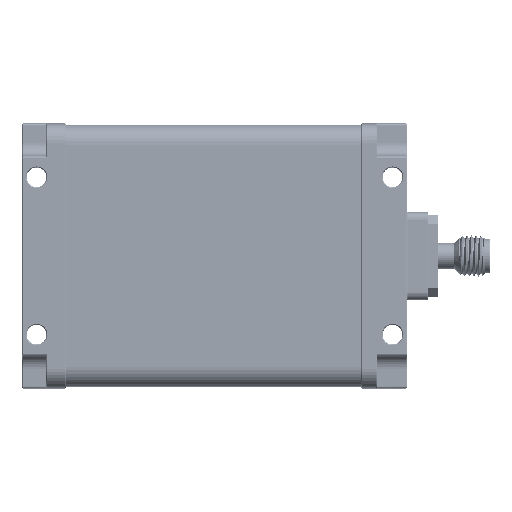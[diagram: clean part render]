
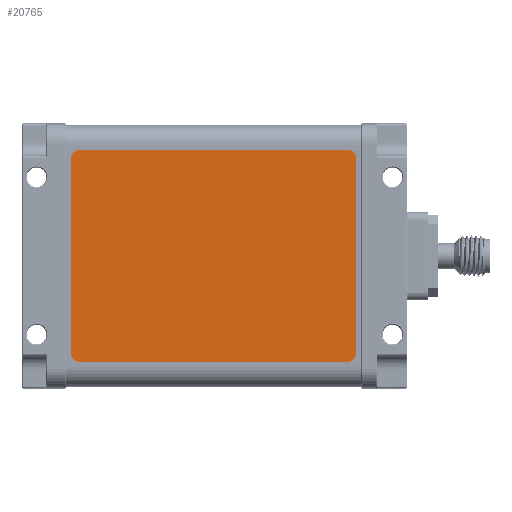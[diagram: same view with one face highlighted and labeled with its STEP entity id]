
A CAD part, top view. The second image highlights one B-rep face of the part: STEP entity #20765.
In plain terms, the highlighted planar face has unit normal (0, 0, 1) as drawn and (0, 0, -1) by its records, which use the part's own axes.
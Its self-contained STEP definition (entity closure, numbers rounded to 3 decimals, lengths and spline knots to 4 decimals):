
#329=PLANE('',#22050);
#865=FACE_OUTER_BOUND('',#2049,.T.);
#2049=EDGE_LOOP('',(#14317,#14318,#14319,#14320,#14321,#14322,#14323,#14324));
#3086=CIRCLE('',#22048,0.05);
#3088=CIRCLE('',#22051,0.05);
#3089=CIRCLE('',#22052,0.05);
#3090=CIRCLE('',#22053,0.05);
#5264=LINE('',#38031,#6622);
#5265=LINE('',#38035,#6623);
#5266=LINE('',#38039,#6624);
#5267=LINE('',#38042,#6625);
#6622=VECTOR('',#24461,0.3937);
#6623=VECTOR('',#24464,0.3937);
#6624=VECTOR('',#24467,0.3937);
#6625=VECTOR('',#24470,0.3937);
#8317=VERTEX_POINT('',#38021);
#8318=VERTEX_POINT('',#38022);
#8321=VERTEX_POINT('',#38030);
#8322=VERTEX_POINT('',#38032);
#8323=VERTEX_POINT('',#38034);
#8324=VERTEX_POINT('',#38036);
#8325=VERTEX_POINT('',#38038);
#8326=VERTEX_POINT('',#38040);
#10733=EDGE_CURVE('',#8317,#8318,#3086,.F.);
#10737=EDGE_CURVE('',#8318,#8321,#5264,.T.);
#10738=EDGE_CURVE('',#8321,#8322,#3088,.F.);
#10739=EDGE_CURVE('',#8323,#8322,#5265,.F.);
#10740=EDGE_CURVE('',#8324,#8323,#3089,.F.);
#10741=EDGE_CURVE('',#8325,#8324,#5266,.F.);
#10742=EDGE_CURVE('',#8326,#8325,#3090,.F.);
#10743=EDGE_CURVE('',#8317,#8326,#5267,.F.);
#14317=ORIENTED_EDGE('',*,*,#10733,.T.);
#14318=ORIENTED_EDGE('',*,*,#10737,.T.);
#14319=ORIENTED_EDGE('',*,*,#10738,.T.);
#14320=ORIENTED_EDGE('',*,*,#10739,.F.);
#14321=ORIENTED_EDGE('',*,*,#10740,.F.);
#14322=ORIENTED_EDGE('',*,*,#10741,.F.);
#14323=ORIENTED_EDGE('',*,*,#10742,.F.);
#14324=ORIENTED_EDGE('',*,*,#10743,.F.);
#20765=ADVANCED_FACE('',(#865),#329,.T.);
#22048=AXIS2_PLACEMENT_3D('',#38023,#24453,#24454);
#22050=AXIS2_PLACEMENT_3D('',#38029,#24459,#24460);
#22051=AXIS2_PLACEMENT_3D('',#38033,#24462,#24463);
#22052=AXIS2_PLACEMENT_3D('',#38037,#24465,#24466);
#22053=AXIS2_PLACEMENT_3D('',#38041,#24468,#24469);
#24453=DIRECTION('center_axis',(0.,0.,1.));
#24454=DIRECTION('ref_axis',(0.707,0.707,0.));
#24459=DIRECTION('center_axis',(0.,0.,-1.));
#24460=DIRECTION('ref_axis',(1.,0.,0.));
#24461=DIRECTION('',(0.,-1.,0.));
#24462=DIRECTION('center_axis',(0.,0.,1.));
#24463=DIRECTION('ref_axis',(0.707,-0.707,0.));
#24464=DIRECTION('',(-1.,0.,0.));
#24465=DIRECTION('center_axis',(0.,0.,-1.));
#24466=DIRECTION('ref_axis',(0.,-1.,0.));
#24467=DIRECTION('',(0.,1.,0.));
#24468=DIRECTION('center_axis',(0.,0.,-1.));
#24469=DIRECTION('ref_axis',(-1.,0.,0.));
#24470=DIRECTION('',(1.,0.,0.));
#38021=CARTESIAN_POINT('',(1.571,1.43,0.01));
#38022=CARTESIAN_POINT('',(1.621,1.38,0.01));
#38023=CARTESIAN_POINT('Origin',(1.571,1.38,0.01));
#38029=CARTESIAN_POINT('Origin',(0.796,0.79,0.01));
#38030=CARTESIAN_POINT('',(1.621,0.2,0.01));
#38031=CARTESIAN_POINT('',(1.621,0.79,0.01));
#38032=CARTESIAN_POINT('',(1.571,0.15,0.01));
#38033=CARTESIAN_POINT('Origin',(1.571,0.2,0.01));
#38034=CARTESIAN_POINT('',(-0.049,0.15,0.01));
#38035=CARTESIAN_POINT('',(0.3735,0.15,0.01));
#38036=CARTESIAN_POINT('',(-0.099,0.2,0.01));
#38037=CARTESIAN_POINT('Origin',(-0.049,0.2,0.01));
#38038=CARTESIAN_POINT('',(-0.099,1.38,0.01));
#38039=CARTESIAN_POINT('',(-0.099,1.085,0.01));
#38040=CARTESIAN_POINT('',(-0.049,1.43,0.01));
#38041=CARTESIAN_POINT('Origin',(-0.049,1.38,0.01));
#38042=CARTESIAN_POINT('',(1.2185,1.43,0.01));
